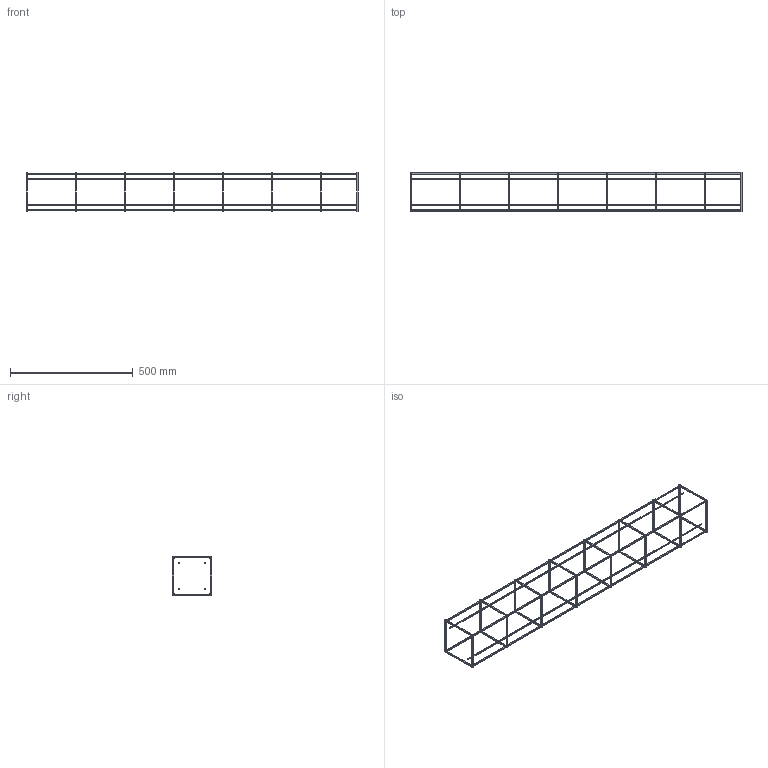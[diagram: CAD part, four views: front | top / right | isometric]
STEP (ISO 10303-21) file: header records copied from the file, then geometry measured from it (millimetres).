
FILE_DESCRIPTION(('Open CASCADE Model'),'2;1');
FILE_NAME('Open CASCADE Shape Model','2026-08-14T13:04:22',('Author'),( 'Open CASCADE'),'Open CASCADE STEP processor 7.7','Open CASCADE 7.7' ,'Unknown');
FILE_SCHEMA(('AUTOMOTIVE_DESIGN { 1 0 10303 214 1 1 1 1 }'));
Length unit declared in the file: millimetre
Products named in the file (41): Open CASCADE STEP translator 7.7 5; Open CASCADE STEP translator 7.7 5.1; Open CASCADE STEP translator 7.7 5.2; Open CASCADE STEP translator 7.7 5.3; Open CASCADE STEP translator 7.7 5.4; Open CASCADE STEP translator 7.7 5.5; Open CASCADE STEP translator 7.7 5.6; Open CASCADE STEP translator 7.7 5.7; Open CASCADE STEP translator 7.7 5.8; Open CASCADE STEP translator 7.7 5.9; Open CASCADE STEP translator 7.7 5.10; Open CASCADE STEP translator 7.7 5.11; Open CASCADE STEP translator 7.7 5.12; Open CASCADE STEP translator 7.7 5.13; Open CASCADE STEP translator 7.7 5.14; Open CASCADE STEP translator 7.7 5.15; Open CASCADE STEP translator 7.7 5.16; Open CASCADE STEP translator 7.7 5.17; Open CASCADE STEP translator 7.7 5.18; Open CASCADE STEP translator 7.7 5.19; Open CASCADE STEP translator 7.7 5.20; Open CASCADE STEP translator 7.7 5.21; Open CASCADE STEP translator 7.7 5.22; Open CASCADE STEP translator 7.7 5.23; Open CASCADE STEP translator 7.7 5.24; Open CASCADE STEP translator 7.7 5.25; Open CASCADE STEP translator 7.7 5.26; Open CASCADE STEP translator 7.7 5.27; Open CASCADE STEP translator 7.7 5.28; Open CASCADE STEP translator 7.7 5.29; Open CASCADE STEP translator 7.7 5.30; Open CASCADE STEP translator 7.7 5.31; Open CASCADE STEP translator 7.7 5.32; Open CASCADE STEP translator 7.7 5.33; Open CASCADE STEP translator 7.7 5.34; Open CASCADE STEP translator 7.7 5.35; Open CASCADE STEP translator 7.7 5.36; Open CASCADE STEP translator 7.7 5.37; Open CASCADE STEP translator 7.7 5.38; Open CASCADE STEP translator 7.7 5.39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
Assembly tree (40 placements, depth 2):
  Open CASCADE STEP translator 7.7 5
    Open CASCADE STEP translator 7.7 5.1
    Open CASCADE STEP translator 7.7 5.2
    Open CASCADE STEP translator 7.7 5.3
    Open CASCADE STEP translator 7.7 5.4
    Open CASCADE STEP translator 7.7 5.5
    Open CASCADE STEP translator 7.7 5.6
    Open CASCADE STEP translator 7.7 5.7
    Open CASCADE STEP translator 7.7 5.8
    Open CASCADE STEP translator 7.7 5.9
    Open CASCADE STEP translator 7.7 5.10
    Open CASCADE STEP translator 7.7 5.11
    Open CASCADE STEP translator 7.7 5.12
    Open CASCADE STEP translator 7.7 5.13
    Open CASCADE STEP translator 7.7 5.14
    Open CASCADE STEP translator 7.7 5.15
    Open CASCADE STEP translator 7.7 5.16
    Open CASCADE STEP translator 7.7 5.17
    Open CASCADE STEP translator 7.7 5.18
    Open CASCADE STEP translator 7.7 5.19
    Open CASCADE STEP translator 7.7 5.20
    Open CASCADE STEP translator 7.7 5.21
    Open CASCADE STEP translator 7.7 5.22
    Open CASCADE STEP translator 7.7 5.23
    Open CASCADE STEP translator 7.7 5.24
    Open CASCADE STEP translator 7.7 5.25
    Open CASCADE STEP translator 7.7 5.26
    Open CASCADE STEP translator 7.7 5.27
    Open CASCADE STEP translator 7.7 5.28
    Open CASCADE STEP translator 7.7 5.29
    Open CASCADE STEP translator 7.7 5.30
    Open CASCADE STEP translator 7.7 5.31
    Open CASCADE STEP translator 7.7 5.32
    Open CASCADE STEP translator 7.7 5.33
    Open CASCADE STEP translator 7.7 5.34
    Open CASCADE STEP translator 7.7 5.35
    Open CASCADE STEP translator 7.7 5.36
    Open CASCADE STEP translator 7.7 5.37
    Open CASCADE STEP translator 7.7 5.38
    Open CASCADE STEP translator 7.7 5.39
    Open CASCADE STEP translator 7.7 5.40
Bounding box: 1355 x 160 x 160 mm (x, y, z)
Volume: 345400 mm3; surface area: 295528 mm2
Topology: 40 solids, 40 shells, 240 faces, 480 edges, 320 vertices
Faces by surface type: plane 240
Entity records: 12976 total; most frequent: CARTESIAN_POINT 2041, DIRECTION 2002, LINE 1440, VECTOR 1440, ORIENTED_EDGE 960, PCURVE 960, DEFINITIONAL_REPRESENTATION 960, EDGE_CURVE 480
